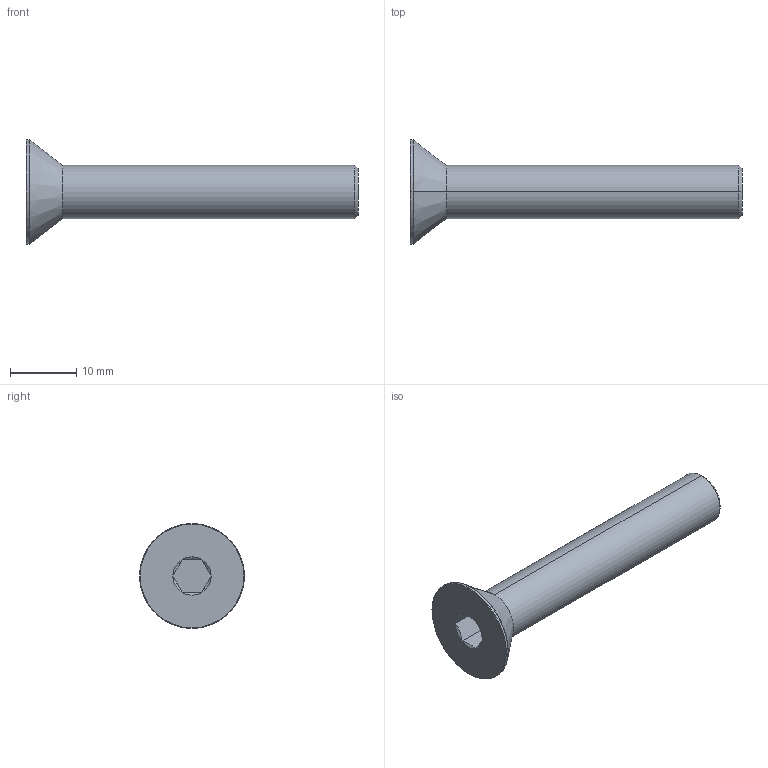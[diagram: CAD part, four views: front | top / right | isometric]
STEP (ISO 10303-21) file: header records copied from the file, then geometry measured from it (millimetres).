
FILE_DESCRIPTION (( 'STEP AP203' ), '1' );
FILE_NAME ('LGDB-TDE-M8x50.STEP', '2026-08-10T13:18:52', ( '' ), ( '' ), 'SwSTEP 2.0', 'SolidWorks 2020', '' );
FILE_SCHEMA (( 'CONFIG_CONTROL_DESIGN' ));
Length unit declared in the file: millimetre
Products named in the file (1): LGDB-TDE-M8x50
Bounding box: 50 x 15.8 x 15.8 mm (x, y, z)
Volume: 2820.7 mm3; surface area: 1683.9 mm2
Topology: 1 solids, 1 shells, 28 faces, 53 edges, 28 vertices
Faces by surface type: cone 11, plane 9, torus 4, cylinder 4
Entity records: 796 total; most frequent: CARTESIAN_POINT 157, DIRECTION 129, ORIENTED_EDGE 106, AXIS2_PLACEMENT_3D 54, EDGE_CURVE 53, EDGE_LOOP 29, FACE_OUTER_BOUND 28, VERTEX_POINT 28
